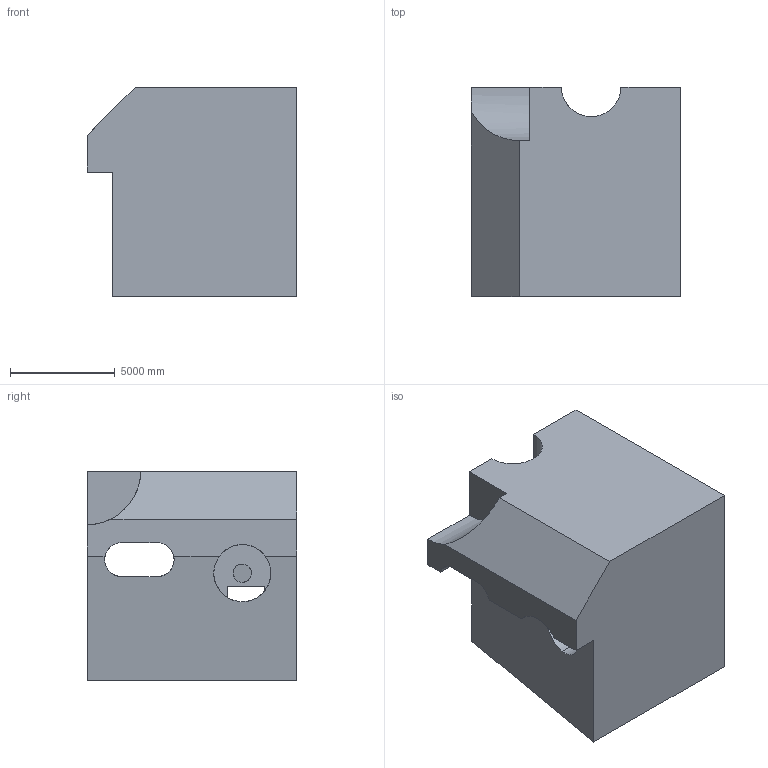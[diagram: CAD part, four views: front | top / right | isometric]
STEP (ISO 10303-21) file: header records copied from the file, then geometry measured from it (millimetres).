
FILE_DESCRIPTION (( 'STEP AP203' ), '1' );
FILE_NAME ('1646.STEP', '2022-08-19T11:19:40', ( 'user' ), ( '' ), 'SwSTEP 2.0', 'SolidWorks 2021', '' );
FILE_SCHEMA (( 'CONFIG_CONTROL_DESIGN' ));
Length unit declared in the file: centimetre
Products named in the file (1): 1646
Bounding box: 10000 x 10000 x 10000 mm (x, y, z)
Volume: 729893299822.7 mm3; surface area: 694332929.7 mm2
Topology: 1 solids, 1 shells, 30 faces, 89 edges, 60 vertices
Faces by surface type: plane 22, cylinder 8
Entity records: 1436 total; most frequent: CARTESIAN_POINT 547, ORIENTED_EDGE 178, DIRECTION 158, EDGE_CURVE 89, VECTOR 64, LINE 64, VERTEX_POINT 60, AXIS2_PLACEMENT_3D 47
